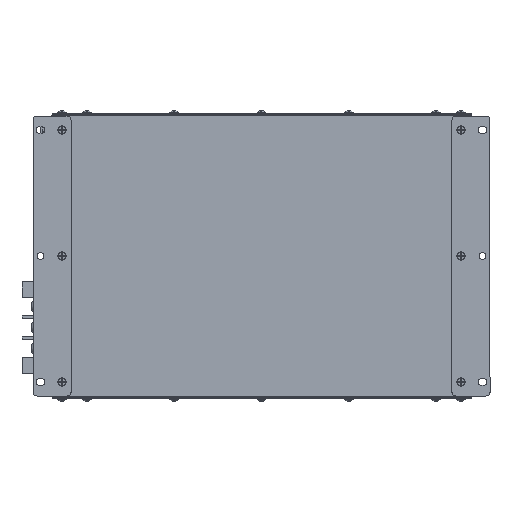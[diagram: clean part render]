
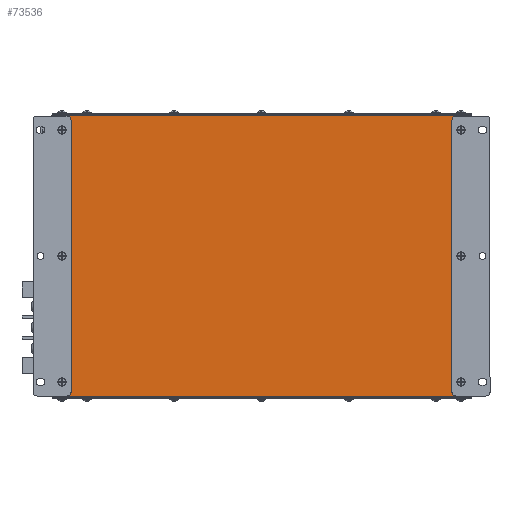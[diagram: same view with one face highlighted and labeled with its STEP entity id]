
A CAD part, front view. The second image highlights one B-rep face of the part: STEP entity #73536.
In plain terms, the highlighted planar face has unit normal (0, -1, 0).
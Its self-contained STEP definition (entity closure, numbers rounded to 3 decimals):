
#4070=PLANE('',#77491);
#6719=LINE('',#105175,#12599);
#6721=LINE('',#105179,#12601);
#6762=LINE('',#105432,#12642);
#6763=LINE('',#105434,#12643);
#6764=LINE('',#105436,#12644);
#6765=LINE('',#105438,#12645);
#6766=LINE('',#105442,#12646);
#6767=LINE('',#105446,#12647);
#6768=LINE('',#105448,#12648);
#6769=LINE('',#105449,#12649);
#6770=LINE('',#105451,#12650);
#6771=LINE('',#105455,#12651);
#12599=VECTOR('',#84899,0.394);
#12601=VECTOR('',#84901,0.394);
#12642=VECTOR('',#85122,0.394);
#12643=VECTOR('',#85123,0.394);
#12644=VECTOR('',#85124,0.394);
#12645=VECTOR('',#85125,0.394);
#12646=VECTOR('',#85128,0.394);
#12647=VECTOR('',#85131,0.394);
#12648=VECTOR('',#85132,0.394);
#12649=VECTOR('',#85133,0.394);
#12650=VECTOR('',#85134,0.394);
#12651=VECTOR('',#85137,0.394);
#19070=FACE_OUTER_BOUND('',#22808,.T.);
#22808=EDGE_LOOP('',(#50846,#50847,#50848,#50849,#50850,#50851,#50852,#50853,
#50854,#50855,#50856,#50857,#50858,#50859,#50860,#50861));
#26791=CIRCLE('',#77492,0.157);
#26792=CIRCLE('',#77493,0.157);
#26793=CIRCLE('',#77494,0.157);
#26794=CIRCLE('',#77495,0.157);
#29945=VERTEX_POINT('',#105172);
#29946=VERTEX_POINT('',#105174);
#29947=VERTEX_POINT('',#105176);
#29948=VERTEX_POINT('',#105178);
#30070=VERTEX_POINT('',#105431);
#30071=VERTEX_POINT('',#105433);
#30072=VERTEX_POINT('',#105435);
#30073=VERTEX_POINT('',#105437);
#30074=VERTEX_POINT('',#105439);
#30075=VERTEX_POINT('',#105441);
#30076=VERTEX_POINT('',#105443);
#30077=VERTEX_POINT('',#105445);
#30078=VERTEX_POINT('',#105447);
#30079=VERTEX_POINT('',#105450);
#30080=VERTEX_POINT('',#105452);
#30081=VERTEX_POINT('',#105454);
#38233=EDGE_CURVE('',#29945,#29946,#6719,.T.);
#38235=EDGE_CURVE('',#29947,#29948,#6721,.T.);
#38361=EDGE_CURVE('',#30070,#29946,#6762,.T.);
#38362=EDGE_CURVE('',#30071,#29945,#6763,.T.);
#38363=EDGE_CURVE('',#30072,#30071,#6764,.T.);
#38364=EDGE_CURVE('',#30072,#30073,#6765,.T.);
#38365=EDGE_CURVE('',#30073,#30074,#26791,.T.);
#38366=EDGE_CURVE('',#30074,#30075,#6766,.T.);
#38367=EDGE_CURVE('',#30075,#30076,#26792,.T.);
#38368=EDGE_CURVE('',#30076,#30077,#6767,.T.);
#38369=EDGE_CURVE('',#30078,#30077,#6768,.T.);
#38370=EDGE_CURVE('',#29948,#30078,#6769,.T.);
#38371=EDGE_CURVE('',#29947,#30079,#6770,.T.);
#38372=EDGE_CURVE('',#30079,#30080,#26793,.T.);
#38373=EDGE_CURVE('',#30080,#30081,#6771,.T.);
#38374=EDGE_CURVE('',#30081,#30070,#26794,.T.);
#50846=ORIENTED_EDGE('',*,*,#38361,.T.);
#50847=ORIENTED_EDGE('',*,*,#38233,.F.);
#50848=ORIENTED_EDGE('',*,*,#38362,.F.);
#50849=ORIENTED_EDGE('',*,*,#38363,.F.);
#50850=ORIENTED_EDGE('',*,*,#38364,.T.);
#50851=ORIENTED_EDGE('',*,*,#38365,.T.);
#50852=ORIENTED_EDGE('',*,*,#38366,.T.);
#50853=ORIENTED_EDGE('',*,*,#38367,.T.);
#50854=ORIENTED_EDGE('',*,*,#38368,.T.);
#50855=ORIENTED_EDGE('',*,*,#38369,.F.);
#50856=ORIENTED_EDGE('',*,*,#38370,.F.);
#50857=ORIENTED_EDGE('',*,*,#38235,.F.);
#50858=ORIENTED_EDGE('',*,*,#38371,.T.);
#50859=ORIENTED_EDGE('',*,*,#38372,.T.);
#50860=ORIENTED_EDGE('',*,*,#38373,.T.);
#50861=ORIENTED_EDGE('',*,*,#38374,.T.);
#73536=ADVANCED_FACE('',(#19070),#4070,.F.);
#77491=AXIS2_PLACEMENT_3D('',#105430,#85120,#85121);
#77492=AXIS2_PLACEMENT_3D('',#105440,#85126,#85127);
#77493=AXIS2_PLACEMENT_3D('',#105444,#85129,#85130);
#77494=AXIS2_PLACEMENT_3D('',#105453,#85135,#85136);
#77495=AXIS2_PLACEMENT_3D('',#105456,#85138,#85139);
#84899=DIRECTION('',(0.,0.,-1.));
#84901=DIRECTION('',(0.,0.,-1.));
#85120=DIRECTION('center_axis',(0.,1.,0.));
#85121=DIRECTION('ref_axis',(0.,0.,1.));
#85122=DIRECTION('',(1.,0.,0.));
#85123=DIRECTION('',(1.,0.,0.));
#85124=DIRECTION('',(0.,0.,1.));
#85125=DIRECTION('',(1.,0.,0.));
#85126=DIRECTION('center_axis',(0.,1.,0.));
#85127=DIRECTION('ref_axis',(1.,0.,0.));
#85128=DIRECTION('',(0.,0.,-1.));
#85129=DIRECTION('center_axis',(0.,1.,0.));
#85130=DIRECTION('ref_axis',(0.,0.,-1.));
#85131=DIRECTION('',(-1.,0.,0.));
#85132=DIRECTION('',(0.,0.,1.));
#85133=DIRECTION('',(-1.,0.,0.));
#85134=DIRECTION('',(-1.,0.,0.));
#85135=DIRECTION('center_axis',(0.,1.,0.));
#85136=DIRECTION('ref_axis',(-1.,0.,0.));
#85137=DIRECTION('',(0.,0.,1.));
#85138=DIRECTION('center_axis',(0.,1.,0.));
#85139=DIRECTION('ref_axis',(0.,0.,1.));
#105172=CARTESIAN_POINT('',(1.574,0.,10.335));
#105174=CARTESIAN_POINT('',(1.574,0.,10.311));
#105175=CARTESIAN_POINT('',(1.574,0.,10.335));
#105176=CARTESIAN_POINT('',(1.574,0.,-0.712));
#105178=CARTESIAN_POINT('',(1.574,0.,-0.736));
#105179=CARTESIAN_POINT('',(1.574,0.,10.335));
#105430=CARTESIAN_POINT('Origin',(-6.674,0.,4.799));
#105431=CARTESIAN_POINT('',(0.984,0.,10.311));
#105432=CARTESIAN_POINT('',(-2.254,0.,10.311));
#105433=CARTESIAN_POINT('',(-14.922,0.,10.335));
#105434=CARTESIAN_POINT('',(-14.922,0.,10.335));
#105435=CARTESIAN_POINT('',(-14.922,0.,10.311));
#105436=CARTESIAN_POINT('',(-14.922,0.,-0.736));
#105437=CARTESIAN_POINT('',(-14.331,0.,10.311));
#105438=CARTESIAN_POINT('',(-10.502,0.,10.311));
#105439=CARTESIAN_POINT('',(-14.174,0.,10.154));
#105440=CARTESIAN_POINT('Origin',(-14.331,0.,10.154));
#105441=CARTESIAN_POINT('',(-14.174,0.,-0.555));
#105442=CARTESIAN_POINT('',(-14.174,0.,2.122));
#105443=CARTESIAN_POINT('',(-14.331,0.,-0.712));
#105444=CARTESIAN_POINT('Origin',(-14.331,0.,-0.555));
#105445=CARTESIAN_POINT('',(-14.922,0.,-0.712));
#105446=CARTESIAN_POINT('',(-11.093,0.,-0.712));
#105447=CARTESIAN_POINT('',(-14.922,0.,-0.736));
#105448=CARTESIAN_POINT('',(-14.922,0.,-0.736));
#105449=CARTESIAN_POINT('',(1.574,0.,-0.736));
#105450=CARTESIAN_POINT('',(0.984,0.,-0.712));
#105451=CARTESIAN_POINT('',(-2.845,0.,-0.712));
#105452=CARTESIAN_POINT('',(0.826,0.,-0.555));
#105453=CARTESIAN_POINT('Origin',(0.984,0.,-0.555));
#105454=CARTESIAN_POINT('',(0.826,0.,10.154));
#105455=CARTESIAN_POINT('',(0.826,0.,7.477));
#105456=CARTESIAN_POINT('Origin',(0.984,0.,10.154));
